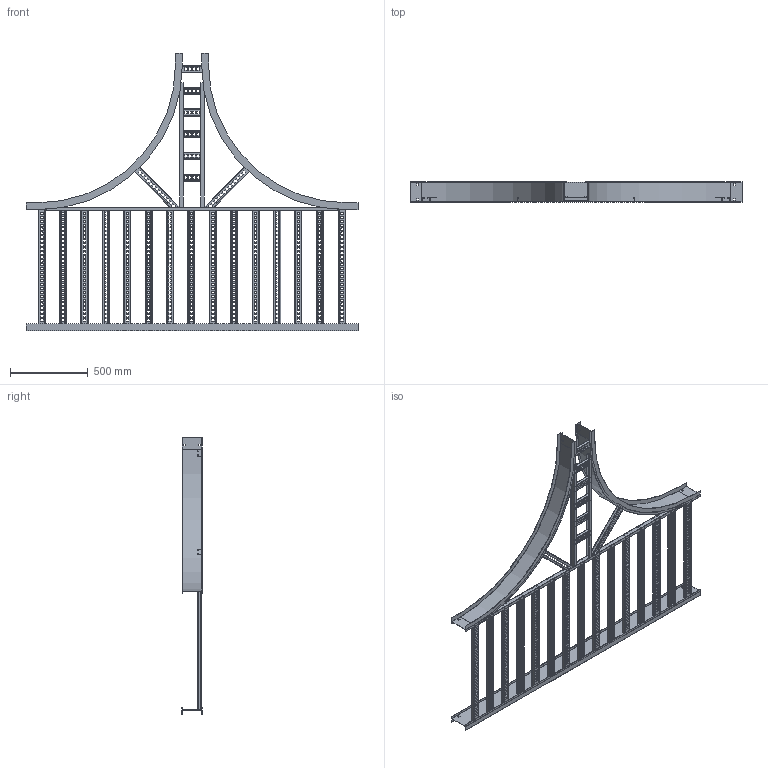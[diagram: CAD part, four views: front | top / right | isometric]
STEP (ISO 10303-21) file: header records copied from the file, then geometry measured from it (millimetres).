
FILE_DESCRIPTION((''),'2;1');
FILE_NAME('AHF53006VRT36_ASM','2010-02-15T',('erouzier'),(''),'PRO/ENGINEER BY PARAMETRIC TECHNOLOGY CORPORATION, 2008510','PRO/ENGINEER BY PARAMETRIC TECHNOLOGY CORPORATION, 2008510','');
FILE_SCHEMA(('CONFIG_CONTROL_DESIGN'));
Length unit declared in the file: inch
Products named in the file (22): CDS001811-5-90-36-I; CDS013846-5-84; CDS000495_GEN_AF9; CDS002159L30-P_AF8; CDS002159L30-P_AF9; CDS002159L30-P_AF10; CDS002159L30-P_AF11; CDS002159L30-P; CDS002159L30-P_AF12; CDS002159L30-P_AF13; CDS002159L30-P_AF14; CDS002159L30-P_AF15; CDS000495_GEN_AF10; CDS000495_GEN_AF11; CDS002159L18-P_AF12; CDS002159L18-P_AF13; CDS002159L6-P_AF4; CDS002159L6-P_AF5; CDS002159L6-P; CDS002159L6-P_AF6; CDS002159L6-P_AF7; AHF53006VRT36_ASM
Assembly tree (29 placements, depth 2):
  AHF53006VRT36_ASM
    CDS001811-5-90-36-I  x2
    CDS013846-5-84
    CDS000495_GEN_AF9
    CDS002159L30-P_AF8
    CDS002159L30-P_AF9
    CDS002159L30-P_AF10
    CDS002159L30-P_AF11
    CDS002159L30-P  x7
    CDS002159L30-P_AF12
    CDS002159L30-P_AF13
    CDS002159L30-P_AF14
    CDS002159L30-P_AF15
    CDS000495_GEN_AF10
    CDS000495_GEN_AF11
    CDS002159L18-P_AF12
    CDS002159L18-P_AF13
    CDS002159L6-P_AF4
    CDS002159L6-P_AF5
    CDS002159L6-P  x2
    CDS002159L6-P_AF6
    CDS002159L6-P_AF7
Bounding box: 2137.66 x 129.54 x 1785.24 mm (x, y, z)
Volume: 4623519.7 mm3; surface area: 5660054.3 mm2
Topology: 29 solids, 29 shells, 4594 faces, 13608 edges, 9072 vertices
Faces by surface type: plane 2451, cylinder 2143
Entity records: 101567 total; most frequent: CARTESIAN_POINT 17809, ORIENTED_EDGE 17544, DIRECTION 17506, EDGE_CURVE 8772, VECTOR 6028, LINE 6028, VERTEX_POINT 5848, AXIS2_PLACEMENT_3D 5739
